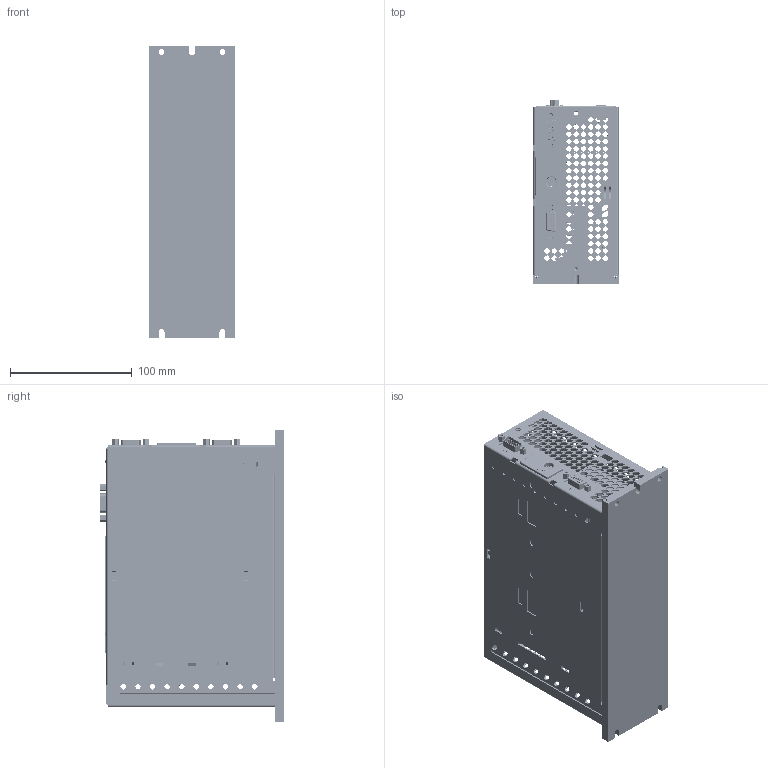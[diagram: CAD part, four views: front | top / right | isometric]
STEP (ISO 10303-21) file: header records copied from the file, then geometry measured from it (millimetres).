
FILE_DESCRIPTION (( 'STEP AP214' ), '1' );
FILE_NAME ('CDB34.003.C.STEP', '2010-09-20T13:25:16', ( 'Bereich' ), ( 'LTi DRiVES GmbH' ), 'SwSTEP 2.0', 'SolidWorks 2008', '' );
FILE_SCHEMA (( 'AUTOMOTIVE_DESIGN' ));
Length unit declared in the file: millimetre
Products named in the file (27): Steuerprint CDB-1_Standard; 1001.546.0-1; Codierschalter_Standard; 1001.546.0-1_Standard; 0931.500.0-1_Standard; gmstba_2.5-12-g-7.62_Standard; DISTANZBOLZEN 107749_Standard; MSTBA_2.5-2-G1_Standard; MSTBA_2.5-2-G(1)1_Standard; D_SUB_15POLIG_Standard; polig-Stift_Standard; 0931.520.0_Standard; CDB34.003.C; 1001.575.0; 0931.502.0_Standard; 0890.501.0_Standard; Steuerprint CDB-1; Self-clinching Nut_PMM_PEM S-M4-0 ZI--N; 0890.503.0_Standard; LED_3FACH_108455-1_Standard; LED_3FACH_108455; Steuerprint_Standard; D-SUB 9polig 106256; Drucktaster-105902-1_Standard; Drucktaster-105902; D-SUB 9polig 106256-1_Standard; mc_1_5-10-g-3_81_Standard
Assembly tree (34 placements, depth 4):
  Steuerprint CDB-1_Standard
  0931.500.0-1_Standard
  CDB34.003.C
    DISTANZBOLZEN 107749_Standard  x6
    0931.520.0_Standard
    1001.575.0
      Self-clinching Nut_PMM_PEM S-M4-0 ZI--N  x4
      0890.503.0_Standard
    gmstba_2.5-12-g-7.62_Standard
    0931.502.0_Standard
    0890.501.0_Standard
    Steuerprint CDB-1
      polig-Stift_Standard
      Drucktaster-105902
        Drucktaster-105902-1_Standard
      D-SUB 9polig 106256
        D-SUB 9polig 106256-1_Standard
      mc_1_5-10-g-3_81_Standard  x2
      Codierschalter_Standard  x2
      D_SUB_15POLIG_Standard
      LED_3FACH_108455
        LED_3FACH_108455-1_Standard
      MSTBA_2.5-2-G(1)1_Standard
        MSTBA_2.5-2-G1_Standard
      1001.546.0-1
        1001.546.0-1_Standard
      Steuerprint_Standard
Bounding box: 70 x 151.1 x 240 mm (x, y, z)
Volume: 360750 mm3; surface area: 318107.5 mm2
Topology: 27 solids, 27 shells, 5154 faces, 13122 edges, 8318 vertices
Faces by surface type: plane 3209, cylinder 925, bspline 844, cone 142, sphere 18, torus 16
Entity records: 148310 total; most frequent: CARTESIAN_POINT 34385, ORIENTED_EDGE 20268, DIRECTION 16744, EDGE_CURVE 10134, VECTOR 6678, LINE 6678, VERTEX_POINT 6448, EDGE_LOOP 5128
